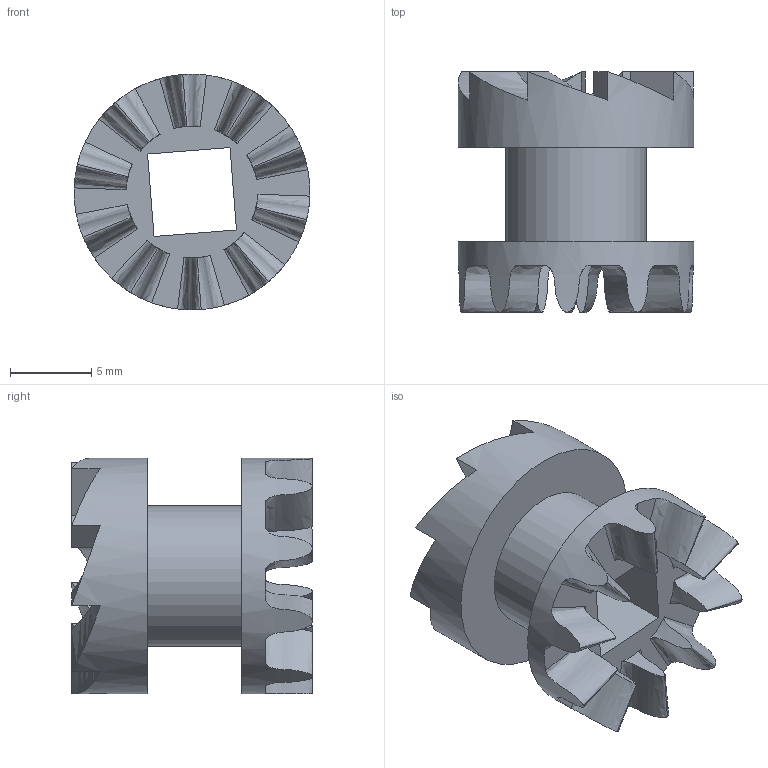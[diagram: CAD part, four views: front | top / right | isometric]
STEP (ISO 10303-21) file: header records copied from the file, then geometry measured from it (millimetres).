
FILE_DESCRIPTION(/* description */ (''),/* implementation_level */ '2;1');
FILE_NAME(/* name */ 'D:\Desktop\WatchCAdFiles\print2endTime\5.8\Solid18.stp',/* time_stamp */ '2019-05-02T17:04:13+02:00',/* author */ ('fkhad'),/* organization */ (''),/* preprocessor_version */ 'ST-DEVELOPER v17',/* originating_system */ 'Autodesk Inventor 2018',/* authorisation */ '');
FILE_SCHEMA (('AUTOMOTIVE_DESIGN { 1 0 10303 214 3 1 1 }'));
Length unit declared in the file: inch
Products named in the file (1): Solid18
Bounding box: 14.5 x 14.81 x 14.5 mm (x, y, z)
Volume: 994 mm3; surface area: 1376.1 mm2
Topology: 1 solids, 1 shells, 68 faces, 178 edges, 114 vertices
Faces by surface type: bspline 29, cylinder 22, plane 17
Full cylindrical faces by diameter (mm): 8.7 x1, 14.5 x2
Entity records: 5705 total; most frequent: CARTESIAN_POINT 4104, ORIENTED_EDGE 356, DIRECTION 232, EDGE_CURVE 178, VERTEX_POINT 114, AXIS2_PLACEMENT_3D 80, EDGE_LOOP 72, LINE 72
